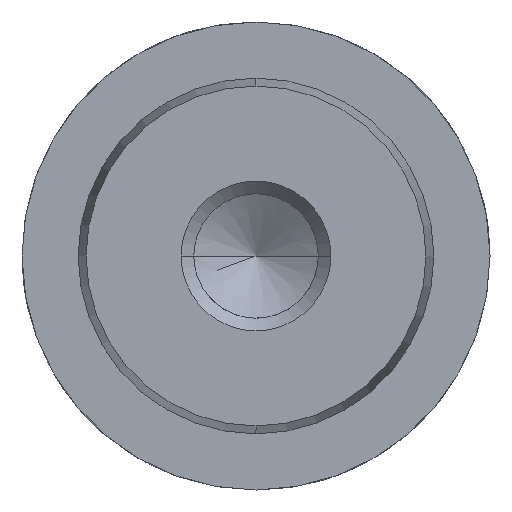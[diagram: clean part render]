
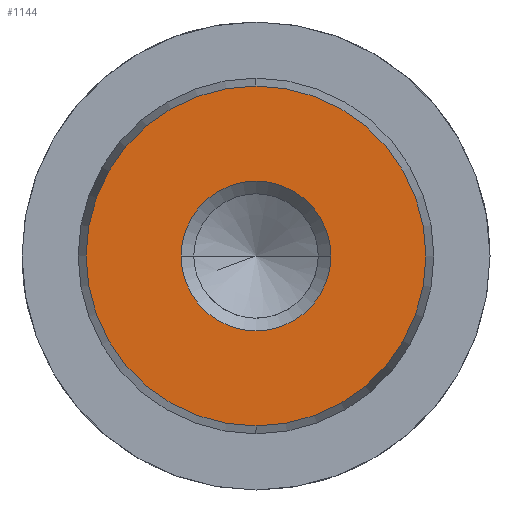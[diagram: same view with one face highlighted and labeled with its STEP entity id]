
A CAD part, left-side view. The second image highlights one B-rep face of the part: STEP entity #1144.
In plain terms, the highlighted planar face has unit normal (-1, 0, 0).
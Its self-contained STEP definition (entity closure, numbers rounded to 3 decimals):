
#1058=CARTESIAN_POINT('Vertex',(0.,0.,-9.078)) ;
#1061=CARTESIAN_POINT('Axis2P3D Location',(0.,0.,0.)) ;
#1065=CARTESIAN_POINT('Vertex',(0.,9.078,0.)) ;
#1068=CARTESIAN_POINT('Axis2P3D Location',(0.,0.,0.)) ;
#1072=CARTESIAN_POINT('Vertex',(0.,0.,9.078)) ;
#1094=CARTESIAN_POINT('Axis2P3D Location',(0.,0.,0.)) ;
#1098=CARTESIAN_POINT('Vertex',(0.,-9.078,0.)) ;
#1101=CARTESIAN_POINT('Axis2P3D Location',(0.,0.,0.)) ;
#1115=CARTESIAN_POINT('Axis2P3D Location',(0.,0.,0.)) ;
#1126=CARTESIAN_POINT('Axis2P3D Location',(0.,0.,0.)) ;
#1130=CARTESIAN_POINT('Vertex',(0.,4.,0.)) ;
#1132=CARTESIAN_POINT('Vertex',(0.,-4.,0.)) ;
#1135=CARTESIAN_POINT('Axis2P3D Location',(0.,0.,0.)) ;
#1062=DIRECTION('Axis2P3D Direction',(1.,0.,-0.)) ;
#1069=DIRECTION('Axis2P3D Direction',(1.,0.,-0.)) ;
#1095=DIRECTION('Axis2P3D Direction',(1.,0.,-0.)) ;
#1102=DIRECTION('Axis2P3D Direction',(1.,0.,-0.)) ;
#1116=DIRECTION('Axis2P3D Direction',(1.,0.,-0.)) ;
#1117=DIRECTION('Axis2P3D XDirection',(-0.,0.,-1.)) ;
#1127=DIRECTION('Axis2P3D Direction',(1.,0.,-0.)) ;
#1136=DIRECTION('Axis2P3D Direction',(1.,0.,-0.)) ;
#1063=AXIS2_PLACEMENT_3D('Circle Axis2P3D',#1061,#1062,$) ;
#1070=AXIS2_PLACEMENT_3D('Circle Axis2P3D',#1068,#1069,$) ;
#1096=AXIS2_PLACEMENT_3D('Circle Axis2P3D',#1094,#1095,$) ;
#1103=AXIS2_PLACEMENT_3D('Circle Axis2P3D',#1101,#1102,$) ;
#1118=AXIS2_PLACEMENT_3D('Plane Axis2P3D',#1115,#1116,#1117) ;
#1128=AXIS2_PLACEMENT_3D('Circle Axis2P3D',#1126,#1127,$) ;
#1137=AXIS2_PLACEMENT_3D('Circle Axis2P3D',#1135,#1136,$) ;
#1121=ORIENTED_EDGE('',*,*,#1067,.F.) ;
#1122=ORIENTED_EDGE('',*,*,#1105,.F.) ;
#1123=ORIENTED_EDGE('',*,*,#1100,.F.) ;
#1124=ORIENTED_EDGE('',*,*,#1074,.F.) ;
#1141=ORIENTED_EDGE('',*,*,#1134,.T.) ;
#1142=ORIENTED_EDGE('',*,*,#1139,.T.) ;
#1143=FACE_BOUND('',#1140,.T.) ;
#1144=ADVANCED_FACE('718-19x180',(#1125,#1143),#1119,.F.) ;
#1064=CIRCLE('generated circle',#1063,9.078) ;
#1071=CIRCLE('generated circle',#1070,9.078) ;
#1097=CIRCLE('generated circle',#1096,9.078) ;
#1104=CIRCLE('generated circle',#1103,9.078) ;
#1129=CIRCLE('generated circle',#1128,4.) ;
#1138=CIRCLE('generated circle',#1137,4.) ;
#1067=EDGE_CURVE('',#1059,#1066,#1064,.T.) ;
#1074=EDGE_CURVE('',#1066,#1073,#1071,.T.) ;
#1100=EDGE_CURVE('',#1073,#1099,#1097,.T.) ;
#1105=EDGE_CURVE('',#1099,#1059,#1104,.T.) ;
#1134=EDGE_CURVE('',#1131,#1133,#1129,.T.) ;
#1139=EDGE_CURVE('',#1133,#1131,#1138,.T.) ;
#1120=EDGE_LOOP('',(#1121,#1122,#1123,#1124)) ;
#1140=EDGE_LOOP('',(#1141,#1142)) ;
#1125=FACE_OUTER_BOUND('',#1120,.T.) ;
#1119=PLANE('Plane',#1118) ;
#1059=VERTEX_POINT('',#1058) ;
#1066=VERTEX_POINT('',#1065) ;
#1073=VERTEX_POINT('',#1072) ;
#1099=VERTEX_POINT('',#1098) ;
#1131=VERTEX_POINT('',#1130) ;
#1133=VERTEX_POINT('',#1132) ;
